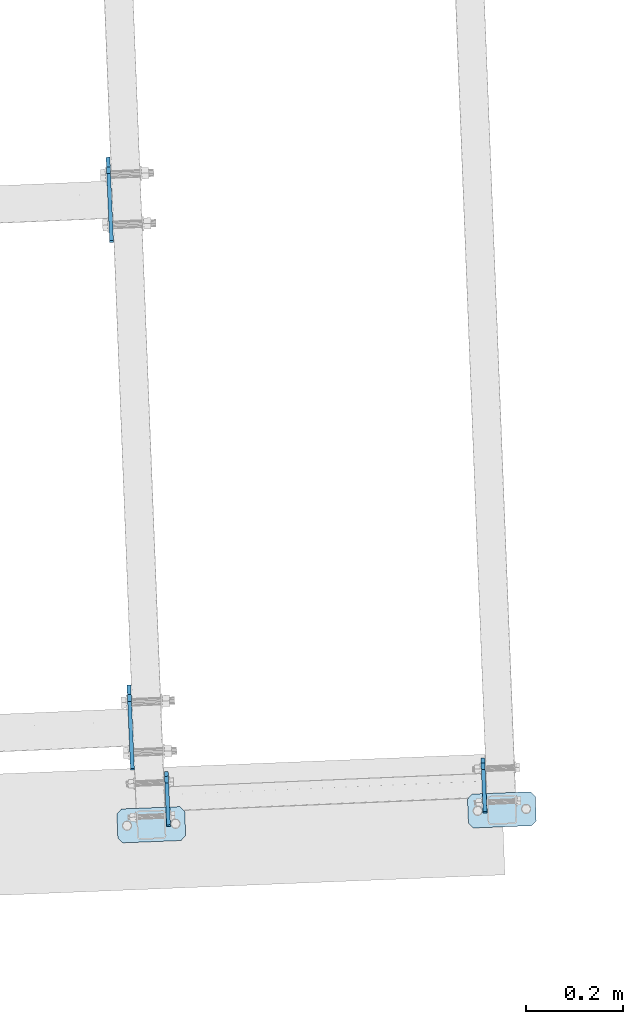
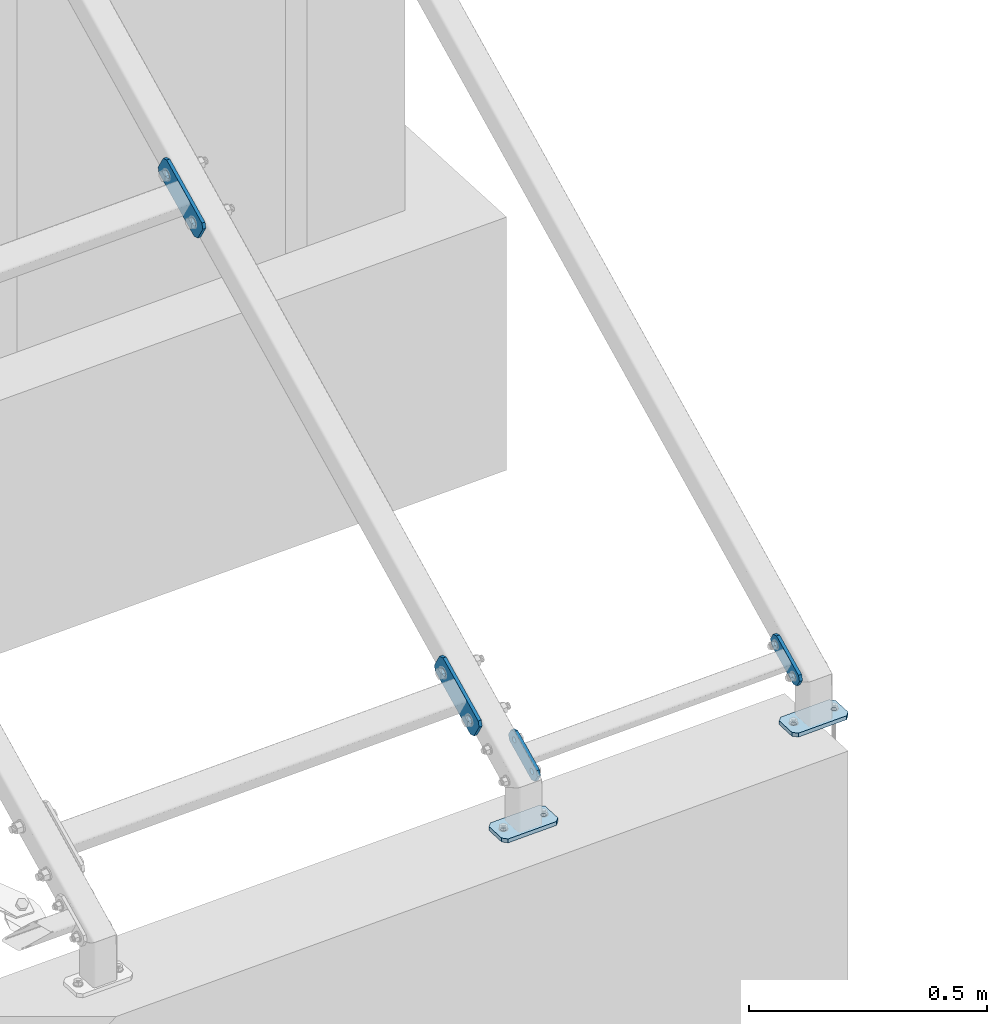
# One storey, part 66 of 288: 6 plates, 38 openings.
"""IFC2X3 building model written with IfcOpenShell, lengths in millimetres."""

from ifc_helpers import new_model, entity, si_unit, converted_unit, point, frame, frame_2d, origin, origin_with_axes, origin_2d_with_axis, place, context, project, spatial, polyline, circle_curve, line_curve, trimmed, segment, composite_curve, circle, outline, extrude, material, layer, layer_set, element, save


model = new_model("IFC2X3")

# Units and contexts
model_context = context("Model", 3, precision=1e-09, world=origin_with_axes())
ifc_project = project(units=[si_unit("LENGTHUNIT", "METRE", prefix="MILLI"), si_unit("AREAUNIT", "SQUARE_METRE"), si_unit("VOLUMEUNIT", "CUBIC_METRE"), converted_unit("PLANEANGLEUNIT", "DEGREE", entity("IfcPlaneAngleMeasure", 0.01745329), si_unit("PLANEANGLEUNIT", "RADIAN"), dimensions=[0, 0, 0, 0, 0, 0, 0])], contexts=[model_context])

# Site, building, storey
site_placement = place(None, origin_with_axes())
site = spatial("IfcSite", under=ifc_project, at=site_placement, Name="Remont ?wietlik?w nad MC w NCPP w Opolu", CompositionType="ELEMENT")
building_placement = place(site_placement, origin_with_axes())
building = spatial("IfcBuilding", under=site, at=building_placement, Name="Konstrukcja 1", CompositionType="ELEMENT")
storey_placement = place(building_placement, origin_with_axes())
storey = spatial("IfcBuildingStorey", under=building, at=storey_placement, Name="Default Storey", CompositionType="ELEMENT", Elevation=0.0)

# Plate, openings
ifc_material = material(Name="S235")
ifc_layer_1 = layer(ifc_material, 8.0)
ifc_layer_set_1 = layer_set([ifc_layer_1], Name="S235")
plate_1_placement = place(None, frame((9874.069138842, 13946.64365318, 91.193206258), z_axis=(-0.999102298, -0.042361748, 0.000284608), x_axis=(0.021561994, -0.502733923, 0.864172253)))
plate_1 = element("IfcPlate", 1, at=plate_1_placement, inside=storey, material=ifc_layer_set_1, Name="-", ObjectType="-", context=model_context, shape_type="SweptSolid", body=[
    extrude(outline(polyline([(0.0, 0.0), (40.0, 0.0), (40.0, 120.0), (0.0, 120.0), (0.0, 0.0)])), origin_with_axes(), (0.0, 0.0, 1.0), 8.0),
])
opening_1_placement = place(plate_1_placement, frame((0.0, 0.0, -0.01), z_axis=(0.0, 0.0, 1.0), x_axis=(1.0, 0.0, 0.0)))
element("IfcOpeningElement", 2, at=opening_1_placement, cuts=plate_1, ObjectType="Opening", context=model_context, shape_type="SweptSolid", body=[
    extrude(outline(composite_curve([segment(trimmed(line_curve((0.0, 0.0), (1.0, 0.0), 10.0), [point((0.0, 0.0))], [point((10.0, 0.0))], True, "CARTESIAN"), True, "CONTINUOUS"), segment(trimmed(circle_curve(frame_2d((10.0, 10.0), x_axis=(-1.0, 0.0)), 10.0), [point((10.0, 0.0))], [point((0.0, 10.0))], False, "CARTESIAN"), True, "CONTINUOUS"), segment(trimmed(line_curve((0.0, 10.0), (0.0, -1.0), 10.0), [point((0.0, 10.0))], [point((0.0, 0.0))], True, "CARTESIAN"), True, "CONTINUOUS")], self_intersect=False)), origin(), (0.0, 0.0, 1.0), 8.02),
])
opening_2_placement = place(plate_1_placement, frame((0.0, 0.0, -0.01), z_axis=(0.0, 0.0, 1.0), x_axis=(1.0, 0.0, 0.0)))
element("IfcOpeningElement", 3, at=opening_2_placement, cuts=plate_1, ObjectType="Opening", context=model_context, shape_type="SweptSolid", body=[
    extrude(outline(composite_curve([segment(trimmed(line_curve((40.0, 0.0), (0.0, 1.0), 10.0), [point((40.0, 0.0))], [point((40.0, 10.0))], True, "CARTESIAN"), True, "CONTINUOUS"), segment(trimmed(circle_curve(frame_2d((30.0, 10.0), x_axis=(-1.0, 0.0)), 10.0), [point((40.0, 10.0))], [point((30.0, 0.0))], False, "CARTESIAN"), True, "CONTINUOUS"), segment(trimmed(line_curve((30.0, 0.0), (1.0, 0.0), 10.0), [point((30.0, 0.0))], [point((40.0, 0.0))], True, "CARTESIAN"), True, "CONTINUOUS")], self_intersect=False)), origin(), (0.0, 0.0, 1.0), 8.02),
])
opening_3_placement = place(plate_1_placement, frame((0.0, 0.0, -0.01), z_axis=(0.0, 0.0, 1.0), x_axis=(1.0, 0.0, 0.0)))
element("IfcOpeningElement", 4, at=opening_3_placement, cuts=plate_1, ObjectType="Opening", context=model_context, shape_type="SweptSolid", body=[
    extrude(outline(composite_curve([segment(trimmed(line_curve((40.0, 120.0), (-1.0, 0.0), 10.0), [point((40.0, 120.0))], [point((30.0, 120.0))], True, "CARTESIAN"), True, "CONTINUOUS"), segment(trimmed(circle_curve(frame_2d((30.0, 110.0), x_axis=(-1.0, 0.0)), 10.0), [point((30.0, 120.0))], [point((40.0, 110.0))], False, "CARTESIAN"), True, "CONTINUOUS"), segment(trimmed(line_curve((40.0, 110.0), (0.0, 1.0), 10.0), [point((40.0, 110.0))], [point((40.0, 120.0))], True, "CARTESIAN"), True, "CONTINUOUS")], self_intersect=False)), origin(), (0.0, 0.0, 1.0), 8.02),
])
opening_4_placement = place(plate_1_placement, frame((0.0, 0.0, -0.01), z_axis=(0.0, 0.0, 1.0), x_axis=(1.0, 0.0, 0.0)))
element("IfcOpeningElement", 5, at=opening_4_placement, cuts=plate_1, ObjectType="Opening", context=model_context, shape_type="SweptSolid", body=[
    extrude(outline(composite_curve([segment(trimmed(line_curve((0.0, 120.0), (0.0, -1.0), 10.0), [point((0.0, 120.0))], [point((0.0, 110.0))], True, "CARTESIAN"), True, "CONTINUOUS"), segment(trimmed(circle_curve(frame_2d((10.0, 110.0), x_axis=(-1.0, 0.0)), 10.0), [point((0.0, 110.0))], [point((10.0, 120.0))], False, "CARTESIAN"), True, "CONTINUOUS"), segment(trimmed(line_curve((10.0, 120.0), (-1.0, 0.0), 10.0), [point((10.0, 120.0))], [point((0.0, 120.0))], True, "CARTESIAN"), True, "CONTINUOUS")], self_intersect=False)), origin(), (0.0, 0.0, 1.0), 8.02),
])
opening_5_placement = place(plate_1_placement, frame((12.999, 100.0, 8.5), z_axis=(0.0, 0.0, 1.0), x_axis=(1.0, 0.0, 0.0)))
element("IfcOpeningElement", 6, at=opening_5_placement, cuts=plate_1, ObjectType="Opening", context=model_context, shape_type="SweptSolid", body=[
    extrude(circle(Radius=7.001, at=frame_2d((7.001, 0.0), x_axis=(1.0, 0.0))), origin(), (0.0, 0.0, -1.0), 9.0),
])
opening_6_placement = place(plate_1_placement, frame((12.999, 20.0, 8.5), z_axis=(0.0, 0.0, 1.0), x_axis=(1.0, 0.0, 0.0)))
element("IfcOpeningElement", 7, at=opening_6_placement, cuts=plate_1, ObjectType="Opening", context=model_context, shape_type="SweptSolid", body=[
    extrude(circle(Radius=7.001, at=frame_2d((7.001, 0.0), x_axis=(1.0, 0.0))), origin(), (0.0, 0.0, -1.0), 9.0),
])

plate_2_placement = place(None, frame((10526.630680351, 13974.312139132, 91.007315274), z_axis=(-0.999102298, -0.042361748, 0.000284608), x_axis=(0.021561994, -0.502733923, 0.864172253)))
plate_2 = element("IfcPlate", 8, at=plate_2_placement, inside=storey, material=ifc_layer_set_1, Name="-", ObjectType="-", context=model_context, shape_type="SweptSolid", body=[
    extrude(outline(polyline([(0.0, 0.0), (40.0, 0.0), (40.0, 120.0), (0.0, 120.0), (0.0, 0.0)])), origin_with_axes(), (0.0, 0.0, 1.0), 8.0),
])
opening_7_placement = place(plate_2_placement, frame((12.999, 100.0, 8.5), z_axis=(0.0, 0.0, 1.0), x_axis=(1.0, 0.0, 0.0)))
element("IfcOpeningElement", 9, at=opening_7_placement, cuts=plate_2, ObjectType="Opening", context=model_context, shape_type="SweptSolid", body=[
    extrude(circle(Radius=7.001, at=frame_2d((7.001, 0.0), x_axis=(1.0, 0.0))), origin(), (0.0, 0.0, -1.0), 9.0),
])
opening_8_placement = place(plate_2_placement, frame((12.999, 20.0, 8.5), z_axis=(0.0, 0.0, 1.0), x_axis=(1.0, 0.0, 0.0)))
element("IfcOpeningElement", 10, at=opening_8_placement, cuts=plate_2, ObjectType="Opening", context=model_context, shape_type="SweptSolid", body=[
    extrude(circle(Radius=7.001, at=frame_2d((7.001, 0.0), x_axis=(1.0, 0.0))), origin(), (0.0, 0.0, -1.0), 9.0),
])
opening_9_placement = place(plate_2_placement, frame((0.0, 0.0, -0.01), z_axis=(0.0, 0.0, 1.0), x_axis=(1.0, 0.0, 0.0)))
element("IfcOpeningElement", 11, at=opening_9_placement, cuts=plate_2, ObjectType="Opening", context=model_context, shape_type="SweptSolid", body=[
    extrude(outline(composite_curve([segment(trimmed(line_curve((40.0, 0.0), (0.0, 1.0), 10.0), [point((40.0, 0.0))], [point((40.0, 10.0))], True, "CARTESIAN"), True, "CONTINUOUS"), segment(trimmed(circle_curve(frame_2d((30.0, 10.0), x_axis=(-1.0, 0.0)), 10.0), [point((40.0, 10.0))], [point((30.0, 0.0))], False, "CARTESIAN"), True, "CONTINUOUS"), segment(trimmed(line_curve((30.0, 0.0), (1.0, 0.0), 10.0), [point((30.0, 0.0))], [point((40.0, 0.0))], True, "CARTESIAN"), True, "CONTINUOUS")], self_intersect=False)), origin(), (0.0, 0.0, 1.0), 8.02),
])
opening_10_placement = place(plate_2_placement, frame((0.0, 0.0, -0.01), z_axis=(0.0, 0.0, 1.0), x_axis=(1.0, 0.0, 0.0)))
element("IfcOpeningElement", 12, at=opening_10_placement, cuts=plate_2, ObjectType="Opening", context=model_context, shape_type="SweptSolid", body=[
    extrude(outline(composite_curve([segment(trimmed(line_curve((0.0, 0.0), (1.0, 0.0), 10.0), [point((0.0, 0.0))], [point((10.0, 0.0))], True, "CARTESIAN"), True, "CONTINUOUS"), segment(trimmed(circle_curve(frame_2d((10.0, 10.0), x_axis=(-1.0, 0.0)), 10.0), [point((10.0, 0.0))], [point((0.0, 10.0))], False, "CARTESIAN"), True, "CONTINUOUS"), segment(trimmed(line_curve((0.0, 10.0), (0.0, -1.0), 10.0), [point((0.0, 10.0))], [point((0.0, 0.0))], True, "CARTESIAN"), True, "CONTINUOUS")], self_intersect=False)), origin(), (0.0, 0.0, 1.0), 8.02),
])
opening_11_placement = place(plate_2_placement, frame((0.0, 0.0, -0.01), z_axis=(0.0, 0.0, 1.0), x_axis=(1.0, 0.0, 0.0)))
element("IfcOpeningElement", 13, at=opening_11_placement, cuts=plate_2, ObjectType="Opening", context=model_context, shape_type="SweptSolid", body=[
    extrude(outline(composite_curve([segment(trimmed(line_curve((40.0, 120.0), (-1.0, 0.0), 10.0), [point((40.0, 120.0))], [point((30.0, 120.0))], True, "CARTESIAN"), True, "CONTINUOUS"), segment(trimmed(circle_curve(frame_2d((30.0, 110.0), x_axis=(-1.0, 0.0)), 10.0), [point((30.0, 120.0))], [point((40.0, 110.0))], False, "CARTESIAN"), True, "CONTINUOUS"), segment(trimmed(line_curve((40.0, 110.0), (0.0, 1.0), 10.0), [point((40.0, 110.0))], [point((40.0, 120.0))], True, "CARTESIAN"), True, "CONTINUOUS")], self_intersect=False)), origin(), (0.0, 0.0, 1.0), 8.02),
])
opening_12_placement = place(plate_2_placement, frame((0.0, 0.0, -0.01), z_axis=(0.0, 0.0, 1.0), x_axis=(1.0, 0.0, 0.0)))
element("IfcOpeningElement", 14, at=opening_12_placement, cuts=plate_2, ObjectType="Opening", context=model_context, shape_type="SweptSolid", body=[
    extrude(outline(composite_curve([segment(trimmed(line_curve((0.0, 120.0), (0.0, -1.0), 10.0), [point((0.0, 120.0))], [point((0.0, 110.0))], True, "CARTESIAN"), True, "CONTINUOUS"), segment(trimmed(circle_curve(frame_2d((10.0, 110.0), x_axis=(-1.0, 0.0)), 10.0), [point((0.0, 110.0))], [point((10.0, 120.0))], False, "CARTESIAN"), True, "CONTINUOUS"), segment(trimmed(line_curve((10.0, 120.0), (-1.0, 0.0), 10.0), [point((10.0, 120.0))], [point((0.0, 120.0))], True, "CARTESIAN"), True, "CONTINUOUS")], self_intersect=False)), origin(), (0.0, 0.0, 1.0), 8.02),
])
opening_13_placement = place(plate_2_placement, frame((12.999, 100.0, 8.5), z_axis=(0.0, 0.0, 1.0), x_axis=(1.0, 0.0, 0.0)))
element("IfcOpeningElement", 15, at=opening_13_placement, cuts=plate_2, ObjectType="Opening", context=model_context, shape_type="SweptSolid", body=[
    extrude(circle(Radius=7.001, at=frame_2d((7.001, 0.0), x_axis=(1.0, 0.0))), origin(), (0.0, 0.0, -1.0), 9.0),
])
opening_14_placement = place(plate_2_placement, frame((12.999, 20.0, 8.5), z_axis=(0.0, 0.0, 1.0), x_axis=(1.0, 0.0, 0.0)))
element("IfcOpeningElement", 16, at=opening_14_placement, cuts=plate_2, ObjectType="Opening", context=model_context, shape_type="SweptSolid", body=[
    extrude(circle(Radius=7.001, at=frame_2d((7.001, 0.0), x_axis=(1.0, 0.0))), origin(), (0.0, 0.0, -1.0), 9.0),
])

plate_3_placement = place(None, frame((9748.134734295, 15160.778424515, 791.332014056), z_axis=(-0.999102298, -0.042361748, 0.000284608), x_axis=(0.021561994, -0.502733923, 0.864172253)))
plate_3 = element("IfcPlate", 17, at=plate_3_placement, inside=storey, material=ifc_layer_set_1, Name="-", ObjectType="-", context=model_context, shape_type="SweptSolid", body=[
    extrude(outline(polyline([(0.0, 0.0), (60.0, 0.0), (60.0, 180.0), (0.0, 180.0), (0.0, 0.0)])), origin_with_axes(), (0.0, 0.0, -1.0), 8.0),
])
opening_15_placement = place(plate_3_placement, frame((60.0, 0.0, 0.01), z_axis=(0.0, 0.0, 1.0), x_axis=(0.0, 1.0, 0.0)))
element("IfcOpeningElement", 18, at=opening_15_placement, cuts=plate_3, ObjectType="Opening", context=model_context, shape_type="SweptSolid", body=[
    extrude(outline(composite_curve([segment(trimmed(line_curve((0.0, 0.0), (1.0, 0.0), 10.0), [point((0.0, 0.0))], [point((10.0, 0.0))], True, "CARTESIAN"), True, "CONTINUOUS"), segment(trimmed(circle_curve(frame_2d((10.0, 10.0), x_axis=(-1.0, 0.0)), 10.0), [point((10.0, 0.0))], [point((0.0, 10.0))], False, "CARTESIAN"), True, "CONTINUOUS"), segment(trimmed(line_curve((0.0, 10.0), (0.0, -1.0), 10.0), [point((0.0, 10.0))], [point((0.0, 0.0))], True, "CARTESIAN"), True, "CONTINUOUS")], self_intersect=False)), origin(), (0.0, 0.0, -1.0), 8.02),
])
opening_16_placement = place(plate_3_placement, frame((0.0, 0.0, 0.01), z_axis=(0.0, 0.0, 1.0), x_axis=(1.0, 0.0, 0.0)))
element("IfcOpeningElement", 19, at=opening_16_placement, cuts=plate_3, ObjectType="Opening", context=model_context, shape_type="SweptSolid", body=[
    extrude(outline(composite_curve([segment(trimmed(line_curve((0.0, 0.0), (1.0, 0.0), 10.0), [point((0.0, 0.0))], [point((10.0, 0.0))], True, "CARTESIAN"), True, "CONTINUOUS"), segment(trimmed(circle_curve(frame_2d((10.0, 10.0), x_axis=(-1.0, 0.0)), 10.0), [point((10.0, 0.0))], [point((0.0, 10.0))], False, "CARTESIAN"), True, "CONTINUOUS"), segment(trimmed(line_curve((0.0, 10.0), (0.0, -1.0), 10.0), [point((0.0, 10.0))], [point((0.0, 0.0))], True, "CARTESIAN"), True, "CONTINUOUS")], self_intersect=False)), origin(), (0.0, 0.0, -1.0), 8.02),
])
opening_17_placement = place(plate_3_placement, frame((60.0, 180.0, 0.01), z_axis=(0.0, 0.0, 1.0), x_axis=(-1.0, 0.0, 0.0)))
element("IfcOpeningElement", 20, at=opening_17_placement, cuts=plate_3, ObjectType="Opening", context=model_context, shape_type="SweptSolid", body=[
    extrude(outline(composite_curve([segment(trimmed(line_curve((0.0, 0.0), (1.0, 0.0), 10.0), [point((0.0, 0.0))], [point((10.0, 0.0))], True, "CARTESIAN"), True, "CONTINUOUS"), segment(trimmed(circle_curve(frame_2d((10.0, 10.0), x_axis=(-1.0, 0.0)), 10.0), [point((10.0, 0.0))], [point((0.0, 10.0))], False, "CARTESIAN"), True, "CONTINUOUS"), segment(trimmed(line_curve((0.0, 10.0), (0.0, -1.0), 10.0), [point((0.0, 10.0))], [point((0.0, 0.0))], True, "CARTESIAN"), True, "CONTINUOUS")], self_intersect=False)), origin(), (0.0, 0.0, -1.0), 8.02),
])
opening_18_placement = place(plate_3_placement, frame((0.0, 180.0, 0.01), z_axis=(0.0, 0.0, 1.0), x_axis=(0.0, -1.0, 0.0)))
element("IfcOpeningElement", 21, at=opening_18_placement, cuts=plate_3, ObjectType="Opening", context=model_context, shape_type="SweptSolid", body=[
    extrude(outline(composite_curve([segment(trimmed(line_curve((0.0, 0.0), (1.0, 0.0), 10.0), [point((0.0, 0.0))], [point((10.0, 0.0))], True, "CARTESIAN"), True, "CONTINUOUS"), segment(trimmed(circle_curve(frame_2d((10.0, 10.0), x_axis=(-1.0, 0.0)), 10.0), [point((10.0, 0.0))], [point((0.0, 10.0))], False, "CARTESIAN"), True, "CONTINUOUS"), segment(trimmed(line_curve((0.0, 10.0), (0.0, -1.0), 10.0), [point((0.0, 10.0))], [point((0.0, 0.0))], True, "CARTESIAN"), True, "CONTINUOUS")], self_intersect=False)), origin(), (0.0, 0.0, -1.0), 8.02),
])
opening_19_placement = place(plate_3_placement, frame((30.0, 90.0, -8.5), z_axis=(0.0, 0.0, 1.0), x_axis=(1.0, 0.0, 0.0)))
element("IfcOpeningElement", 22, at=opening_19_placement, cuts=plate_3, ObjectType="Opening", context=model_context, shape_type="SweptSolid", body=[
    extrude(circle(Radius=9.001, at=frame_2d((0.0, 60.0), x_axis=(1.0, 0.0))), origin(), (0.0, 0.0, 1.0), 9.0),
])
opening_20_placement = place(plate_3_placement, frame((30.0, 90.0, -8.5), z_axis=(0.0, 0.0, 1.0), x_axis=(1.0, 0.0, 0.0)))
element("IfcOpeningElement", 23, at=opening_20_placement, cuts=plate_3, ObjectType="Opening", context=model_context, shape_type="SweptSolid", body=[
    extrude(circle(Radius=9.001, at=frame_2d((0.0, -60.0), x_axis=(1.0, 0.0))), origin(), (0.0, 0.0, 1.0), 9.0),
])

plate_4_placement = place(None, frame((9791.173596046, 14072.770928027, 157.30762907), z_axis=(-0.999102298, -0.042361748, 0.000284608), x_axis=(0.021561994, -0.502733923, 0.864172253)))
plate_4 = element("IfcPlate", 24, at=plate_4_placement, inside=storey, material=ifc_layer_set_1, Name="-", ObjectType="-", context=model_context, shape_type="SweptSolid", body=[
    extrude(outline(polyline([(0.0, 0.0), (60.0, 0.0), (60.0, 180.0), (0.0, 180.0), (0.0, 0.0)])), origin_with_axes(), (0.0, 0.0, -1.0), 8.0),
])
opening_21_placement = place(plate_4_placement, frame((60.0, 0.0, 0.01), z_axis=(0.0, 0.0, 1.0), x_axis=(0.0, 1.0, 0.0)))
element("IfcOpeningElement", 25, at=opening_21_placement, cuts=plate_4, ObjectType="Opening", context=model_context, shape_type="SweptSolid", body=[
    extrude(outline(composite_curve([segment(trimmed(line_curve((0.0, 0.0), (1.0, 0.0), 10.0), [point((0.0, 0.0))], [point((10.0, 0.0))], True, "CARTESIAN"), True, "CONTINUOUS"), segment(trimmed(circle_curve(frame_2d((10.0, 10.0), x_axis=(-1.0, 0.0)), 10.0), [point((10.0, 0.0))], [point((0.0, 10.0))], False, "CARTESIAN"), True, "CONTINUOUS"), segment(trimmed(line_curve((0.0, 10.0), (0.0, -1.0), 10.0), [point((0.0, 10.0))], [point((0.0, 0.0))], True, "CARTESIAN"), True, "CONTINUOUS")], self_intersect=False)), origin(), (0.0, 0.0, -1.0), 8.02),
])
opening_22_placement = place(plate_4_placement, frame((0.0, 0.0, 0.01), z_axis=(0.0, 0.0, 1.0), x_axis=(1.0, 0.0, 0.0)))
element("IfcOpeningElement", 26, at=opening_22_placement, cuts=plate_4, ObjectType="Opening", context=model_context, shape_type="SweptSolid", body=[
    extrude(outline(composite_curve([segment(trimmed(line_curve((0.0, 0.0), (1.0, 0.0), 10.0), [point((0.0, 0.0))], [point((10.0, 0.0))], True, "CARTESIAN"), True, "CONTINUOUS"), segment(trimmed(circle_curve(frame_2d((10.0, 10.0), x_axis=(-1.0, 0.0)), 10.0), [point((10.0, 0.0))], [point((0.0, 10.0))], False, "CARTESIAN"), True, "CONTINUOUS"), segment(trimmed(line_curve((0.0, 10.0), (0.0, -1.0), 10.0), [point((0.0, 10.0))], [point((0.0, 0.0))], True, "CARTESIAN"), True, "CONTINUOUS")], self_intersect=False)), origin(), (0.0, 0.0, -1.0), 8.02),
])
opening_23_placement = place(plate_4_placement, frame((60.0, 180.0, 0.01), z_axis=(0.0, 0.0, 1.0), x_axis=(-1.0, 0.0, 0.0)))
element("IfcOpeningElement", 27, at=opening_23_placement, cuts=plate_4, ObjectType="Opening", context=model_context, shape_type="SweptSolid", body=[
    extrude(outline(composite_curve([segment(trimmed(line_curve((0.0, 0.0), (1.0, 0.0), 10.0), [point((0.0, 0.0))], [point((10.0, 0.0))], True, "CARTESIAN"), True, "CONTINUOUS"), segment(trimmed(circle_curve(frame_2d((10.0, 10.0), x_axis=(-1.0, 0.0)), 10.0), [point((10.0, 0.0))], [point((0.0, 10.0))], False, "CARTESIAN"), True, "CONTINUOUS"), segment(trimmed(line_curve((0.0, 10.0), (0.0, -1.0), 10.0), [point((0.0, 10.0))], [point((0.0, 0.0))], True, "CARTESIAN"), True, "CONTINUOUS")], self_intersect=False)), origin(), (0.0, 0.0, -1.0), 8.02),
])
opening_24_placement = place(plate_4_placement, frame((0.0, 180.0, 0.01), z_axis=(0.0, 0.0, 1.0), x_axis=(0.0, -1.0, 0.0)))
element("IfcOpeningElement", 28, at=opening_24_placement, cuts=plate_4, ObjectType="Opening", context=model_context, shape_type="SweptSolid", body=[
    extrude(outline(composite_curve([segment(trimmed(line_curve((0.0, 0.0), (1.0, 0.0), 10.0), [point((0.0, 0.0))], [point((10.0, 0.0))], True, "CARTESIAN"), True, "CONTINUOUS"), segment(trimmed(circle_curve(frame_2d((10.0, 10.0), x_axis=(-1.0, 0.0)), 10.0), [point((10.0, 0.0))], [point((0.0, 10.0))], False, "CARTESIAN"), True, "CONTINUOUS"), segment(trimmed(line_curve((0.0, 10.0), (0.0, -1.0), 10.0), [point((0.0, 10.0))], [point((0.0, 0.0))], True, "CARTESIAN"), True, "CONTINUOUS")], self_intersect=False)), origin(), (0.0, 0.0, -1.0), 8.02),
])
opening_25_placement = place(plate_4_placement, frame((30.0, 90.0, -8.5), z_axis=(0.0, 0.0, 1.0), x_axis=(1.0, 0.0, 0.0)))
element("IfcOpeningElement", 29, at=opening_25_placement, cuts=plate_4, ObjectType="Opening", context=model_context, shape_type="SweptSolid", body=[
    extrude(circle(Radius=9.001, at=frame_2d((0.0, 60.0), x_axis=(1.0, 0.0))), origin(), (0.0, 0.0, 1.0), 9.0),
])
opening_26_placement = place(plate_4_placement, frame((30.0, 90.0, -8.5), z_axis=(0.0, 0.0, 1.0), x_axis=(1.0, 0.0, 0.0)))
element("IfcOpeningElement", 30, at=opening_26_placement, cuts=plate_4, ObjectType="Opening", context=model_context, shape_type="SweptSolid", body=[
    extrude(circle(Radius=9.001, at=frame_2d((0.0, -60.0), x_axis=(1.0, 0.0))), origin(), (0.0, 0.0, 1.0), 9.0),
])

ifc_layer_2 = layer(ifc_material, 10.0)
ifc_layer_set_2 = layer_set([ifc_layer_2], Name="S235")
plate_5_placement = place(None, frame((9903.596607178, 13972.792921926, 10.000000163), z_axis=(0.0, 0.0, -1.0), x_axis=(0.039392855, -0.9992238, 0.0)))
plate_5 = element("IfcPlate", 31, at=plate_5_placement, inside=storey, material=ifc_layer_set_2, Name="Baseplate", ObjectType="Baseplate", context=model_context, shape_type="SweptSolid", body=[
    extrude(outline(polyline([(0.0, 0.0), (70.0, 0.0), (70.0, 140.0), (0.0, 140.0), (0.0, 0.0)])), origin_with_axes(), (0.0, 0.0, 1.0), 10.0),
])
opening_27_placement = place(plate_5_placement, frame((0.0, 0.0, -0.01), z_axis=(0.0, 0.0, 1.0), x_axis=(1.0, 0.0, 0.0)))
element("IfcOpeningElement", 32, at=opening_27_placement, cuts=plate_5, ObjectType="Opening", context=model_context, shape_type="SweptSolid", body=[
    extrude(outline(composite_curve([segment(trimmed(line_curve((0.0, 140.0), (0.0, -1.0), 10.0), [point((0.0, 140.0))], [point((0.0, 130.0))], True, "CARTESIAN"), True, "CONTINUOUS"), segment(trimmed(circle_curve(frame_2d((10.0, 130.0), x_axis=(-1.0, 0.0)), 10.0), [point((0.0, 130.0))], [point((10.0, 140.0))], False, "CARTESIAN"), True, "CONTINUOUS"), segment(trimmed(line_curve((10.0, 140.0), (-1.0, 0.0), 10.0), [point((10.0, 140.0))], [point((0.0, 140.0))], True, "CARTESIAN"), True, "CONTINUOUS")], self_intersect=False)), origin(), (0.0, 0.0, 1.0), 10.02),
])
opening_28_placement = place(plate_5_placement, frame((0.0, 0.0, -0.01), z_axis=(0.0, 0.0, 1.0), x_axis=(1.0, 0.0, 0.0)))
element("IfcOpeningElement", 33, at=opening_28_placement, cuts=plate_5, ObjectType="Opening", context=model_context, shape_type="SweptSolid", body=[
    extrude(outline(composite_curve([segment(trimmed(line_curve((70.0, 140.0), (-1.0, 0.0), 10.0), [point((70.0, 140.0))], [point((60.0, 140.0))], True, "CARTESIAN"), True, "CONTINUOUS"), segment(trimmed(circle_curve(frame_2d((60.0, 130.0), x_axis=(-1.0, 0.0)), 10.0), [point((60.0, 140.0))], [point((70.0, 130.0))], False, "CARTESIAN"), True, "CONTINUOUS"), segment(trimmed(line_curve((70.0, 130.0), (0.0, 1.0), 10.0), [point((70.0, 130.0))], [point((70.0, 140.0))], True, "CARTESIAN"), True, "CONTINUOUS")], self_intersect=False)), origin(), (0.0, 0.0, 1.0), 10.02),
])
opening_29_placement = place(plate_5_placement, frame((0.0, 0.0, -0.01), z_axis=(0.0, 0.0, 1.0), x_axis=(1.0, 0.0, 0.0)))
element("IfcOpeningElement", 34, at=opening_29_placement, cuts=plate_5, ObjectType="Opening", context=model_context, shape_type="SweptSolid", body=[
    extrude(outline(composite_curve([segment(trimmed(line_curve((0.0, 0.0), (1.0, 0.0), 10.0), [point((0.0, 0.0))], [point((10.0, 0.0))], True, "CARTESIAN"), True, "CONTINUOUS"), segment(trimmed(circle_curve(frame_2d((10.0, 10.0), x_axis=(-1.0, 0.0)), 10.0), [point((10.0, 0.0))], [point((0.0, 10.0))], False, "CARTESIAN"), True, "CONTINUOUS"), segment(trimmed(line_curve((0.0, 10.0), (0.0, -1.0), 10.0), [point((0.0, 10.0))], [point((0.0, 0.0))], True, "CARTESIAN"), True, "CONTINUOUS")], self_intersect=False)), origin(), (0.0, 0.0, 1.0), 10.02),
])
opening_30_placement = place(plate_5_placement, frame((0.0, 0.0, -0.01), z_axis=(0.0, 0.0, 1.0), x_axis=(1.0, 0.0, 0.0)))
element("IfcOpeningElement", 35, at=opening_30_placement, cuts=plate_5, ObjectType="Opening", context=model_context, shape_type="SweptSolid", body=[
    extrude(outline(composite_curve([segment(trimmed(line_curve((70.0, 0.0), (0.0, 1.0), 10.0), [point((70.0, 0.0))], [point((70.0, 10.0))], True, "CARTESIAN"), True, "CONTINUOUS"), segment(trimmed(circle_curve(frame_2d((60.0, 10.0), x_axis=(-1.0, 0.0)), 10.0), [point((70.0, 10.0))], [point((60.0, 0.0))], False, "CARTESIAN"), True, "CONTINUOUS"), segment(trimmed(line_curve((60.0, 0.0), (1.0, 0.0), 10.0), [point((60.0, 0.0))], [point((70.0, 0.0))], True, "CARTESIAN"), True, "CONTINUOUS")], self_intersect=False)), origin(), (0.0, 0.0, 1.0), 10.02),
])
opening_31_placement = place(plate_5_placement, frame((35.0, 120.0, 10.5), z_axis=(0.0, 0.0, -1.0), x_axis=(1.0, 0.0, 0.0)))
element("IfcOpeningElement", 36, at=opening_31_placement, cuts=plate_5, ObjectType="Opening", context=model_context, shape_type="SweptSolid", body=[
    extrude(circle(Radius=6.001, at=origin_2d_with_axis()), origin(), (0.0, 0.0, 1.0), 11.0),
])
opening_32_placement = place(plate_5_placement, frame((35.0, 20.0, 10.5), z_axis=(0.0, 0.0, -1.0), x_axis=(1.0, 0.0, 0.0)))
element("IfcOpeningElement", 37, at=opening_32_placement, cuts=plate_5, ObjectType="Opening", context=model_context, shape_type="SweptSolid", body=[
    extrude(circle(Radius=6.001, at=origin_2d_with_axis()), origin(), (0.0, 0.0, 1.0), 11.0),
])

plate_6_placement = place(None, frame((10626.446332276, 14003.44161357, 10.000000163), z_axis=(0.0, 0.0, -1.0), x_axis=(0.039392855, -0.9992238, 0.0)))
plate_6 = element("IfcPlate", 38, at=plate_6_placement, inside=storey, material=ifc_layer_set_2, Name="Baseplate", ObjectType="Baseplate", context=model_context, shape_type="SweptSolid", body=[
    extrude(outline(polyline([(0.0, 0.0), (70.0, 0.0), (70.0, 140.0), (0.0, 140.0), (0.0, 0.0)])), origin_with_axes(), (0.0, 0.0, 1.0), 10.0),
])
opening_33_placement = place(plate_6_placement, frame((0.0, 0.0, -0.01), z_axis=(0.0, 0.0, 1.0), x_axis=(1.0, 0.0, 0.0)))
element("IfcOpeningElement", 39, at=opening_33_placement, cuts=plate_6, ObjectType="Opening", context=model_context, shape_type="SweptSolid", body=[
    extrude(outline(composite_curve([segment(trimmed(line_curve((0.0, 140.0), (0.0, -1.0), 10.0), [point((0.0, 140.0))], [point((0.0, 130.0))], True, "CARTESIAN"), True, "CONTINUOUS"), segment(trimmed(circle_curve(frame_2d((10.0, 130.0), x_axis=(-1.0, 0.0)), 10.0), [point((0.0, 130.0))], [point((10.0, 140.0))], False, "CARTESIAN"), True, "CONTINUOUS"), segment(trimmed(line_curve((10.0, 140.0), (-1.0, 0.0), 10.0), [point((10.0, 140.0))], [point((0.0, 140.0))], True, "CARTESIAN"), True, "CONTINUOUS")], self_intersect=False)), origin(), (0.0, 0.0, 1.0), 10.02),
])
opening_34_placement = place(plate_6_placement, frame((0.0, 0.0, -0.01), z_axis=(0.0, 0.0, 1.0), x_axis=(1.0, 0.0, 0.0)))
element("IfcOpeningElement", 40, at=opening_34_placement, cuts=plate_6, ObjectType="Opening", context=model_context, shape_type="SweptSolid", body=[
    extrude(outline(composite_curve([segment(trimmed(line_curve((70.0, 140.0), (-1.0, 0.0), 10.0), [point((70.0, 140.0))], [point((60.0, 140.0))], True, "CARTESIAN"), True, "CONTINUOUS"), segment(trimmed(circle_curve(frame_2d((60.0, 130.0), x_axis=(-1.0, 0.0)), 10.0), [point((60.0, 140.0))], [point((70.0, 130.0))], False, "CARTESIAN"), True, "CONTINUOUS"), segment(trimmed(line_curve((70.0, 130.0), (0.0, 1.0), 10.0), [point((70.0, 130.0))], [point((70.0, 140.0))], True, "CARTESIAN"), True, "CONTINUOUS")], self_intersect=False)), origin(), (0.0, 0.0, 1.0), 10.02),
])
opening_35_placement = place(plate_6_placement, frame((0.0, 0.0, -0.01), z_axis=(0.0, 0.0, 1.0), x_axis=(1.0, 0.0, 0.0)))
element("IfcOpeningElement", 41, at=opening_35_placement, cuts=plate_6, ObjectType="Opening", context=model_context, shape_type="SweptSolid", body=[
    extrude(outline(composite_curve([segment(trimmed(line_curve((0.0, 0.0), (1.0, 0.0), 10.0), [point((0.0, 0.0))], [point((10.0, 0.0))], True, "CARTESIAN"), True, "CONTINUOUS"), segment(trimmed(circle_curve(frame_2d((10.0, 10.0), x_axis=(-1.0, 0.0)), 10.0), [point((10.0, 0.0))], [point((0.0, 10.0))], False, "CARTESIAN"), True, "CONTINUOUS"), segment(trimmed(line_curve((0.0, 10.0), (0.0, -1.0), 10.0), [point((0.0, 10.0))], [point((0.0, 0.0))], True, "CARTESIAN"), True, "CONTINUOUS")], self_intersect=False)), origin(), (0.0, 0.0, 1.0), 10.02),
])
opening_36_placement = place(plate_6_placement, frame((0.0, 0.0, -0.01), z_axis=(0.0, 0.0, 1.0), x_axis=(1.0, 0.0, 0.0)))
element("IfcOpeningElement", 42, at=opening_36_placement, cuts=plate_6, ObjectType="Opening", context=model_context, shape_type="SweptSolid", body=[
    extrude(outline(composite_curve([segment(trimmed(line_curve((70.0, 0.0), (0.0, 1.0), 10.0), [point((70.0, 0.0))], [point((70.0, 10.0))], True, "CARTESIAN"), True, "CONTINUOUS"), segment(trimmed(circle_curve(frame_2d((60.0, 10.0), x_axis=(-1.0, 0.0)), 10.0), [point((70.0, 10.0))], [point((60.0, 0.0))], False, "CARTESIAN"), True, "CONTINUOUS"), segment(trimmed(line_curve((60.0, 0.0), (1.0, 0.0), 10.0), [point((60.0, 0.0))], [point((70.0, 0.0))], True, "CARTESIAN"), True, "CONTINUOUS")], self_intersect=False)), origin(), (0.0, 0.0, 1.0), 10.02),
])
opening_37_placement = place(plate_6_placement, frame((35.0, 120.0, 10.5), z_axis=(0.0, 0.0, -1.0), x_axis=(1.0, 0.0, 0.0)))
element("IfcOpeningElement", 43, at=opening_37_placement, cuts=plate_6, ObjectType="Opening", context=model_context, shape_type="SweptSolid", body=[
    extrude(circle(Radius=6.001, at=origin_2d_with_axis()), origin(), (0.0, 0.0, 1.0), 11.0),
])
opening_38_placement = place(plate_6_placement, frame((35.0, 20.0, 10.5), z_axis=(0.0, 0.0, -1.0), x_axis=(1.0, 0.0, 0.0)))
element("IfcOpeningElement", 44, at=opening_38_placement, cuts=plate_6, ObjectType="Opening", context=model_context, shape_type="SweptSolid", body=[
    extrude(circle(Radius=6.001, at=origin_2d_with_axis()), origin(), (0.0, 0.0, 1.0), 11.0),
])

save(model, "model.ifc")
